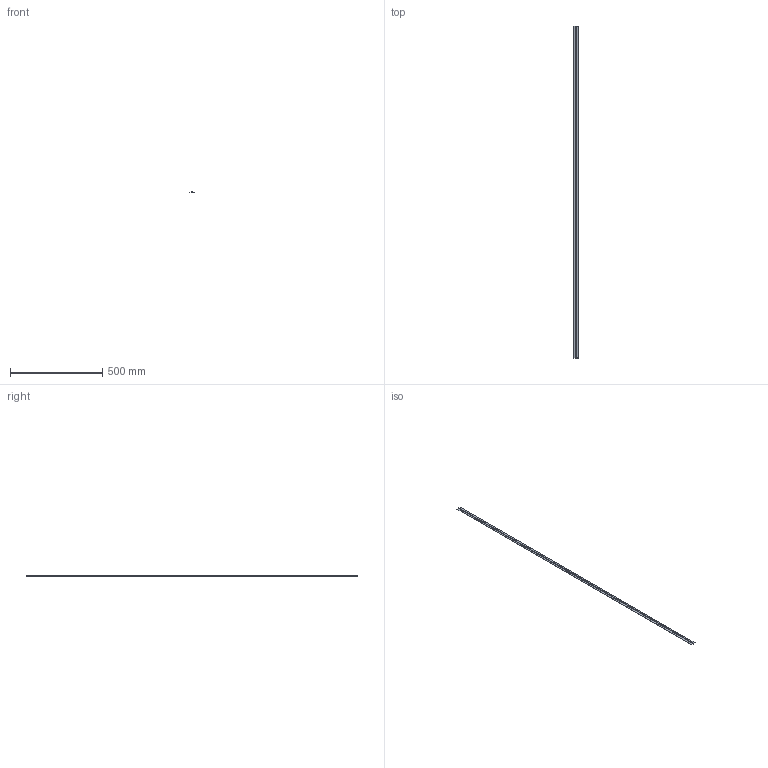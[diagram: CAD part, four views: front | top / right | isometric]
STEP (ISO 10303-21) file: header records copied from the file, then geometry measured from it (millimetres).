
FILE_DESCRIPTION(('STEP AP242'),'1');
FILE_NAME('40-1-4677.stp','2025-06-10T04:40:15',('TraceParts'),('TraceParts S.A.'),'Spatial InterOp 3D',' ',' ');
FILE_SCHEMA(('AP242_MANAGED_MODEL_BASED_3D_ENGINEERING_MIM_LF {1 0 10303 442 1 1 4}'));
Length unit declared in the file: millimetre
Products named in the file (1): 40-1-4677_1
Bounding box: 25 x 1800 x 4 mm (x, y, z)
Volume: 59794.9 mm3; surface area: 129394.9 mm2
Topology: 3 solids, 3 shells, 980 faces, 2922 edges, 1948 vertices
Faces by surface type: plane 494, cylinder 486
Entity records: 41067 total; most frequent: DIRECTION 5860, CARTESIAN_POINT 5853, ORIENTED_EDGE 5844, EDGE_CURVE 2922, AXIS2_PLACEMENT_3D 1955, LINE 1950, VECTOR 1950, VERTEX_POINT 1948
